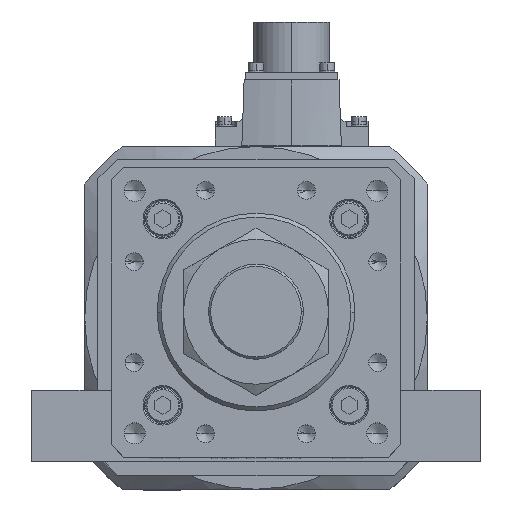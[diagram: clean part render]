
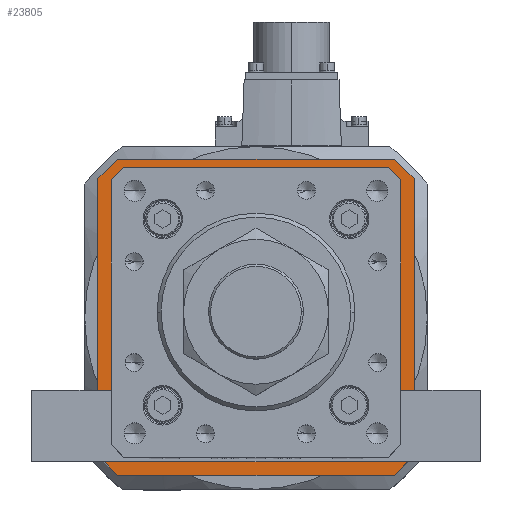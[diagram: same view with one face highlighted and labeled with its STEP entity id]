
A CAD part, top view. The second image highlights one B-rep face of the part: STEP entity #23805.
In plain terms, the highlighted planar face has unit normal (0, 0, 1).
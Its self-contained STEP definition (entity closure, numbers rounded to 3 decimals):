
#252 = EDGE_CURVE ( 'NONE', #26090, #24322, #35913, .T. ) ;
#342 = EDGE_CURVE ( 'NONE', #34647, #35421, #24324, .T. ) ;
#572 = FACE_BOUND ( 'NONE', #6734, .T. ) ;
#703 = DIRECTION ( 'NONE',  ( -0.707, -0.707, 0. ) ) ;
#1301 = LINE ( 'NONE', #16593, #8253 ) ;
#1606 = LINE ( 'NONE', #21027, #23800 ) ;
#1674 = VECTOR ( 'NONE', #15169, 1000. ) ;
#2238 = VERTEX_POINT ( 'NONE', #34491 ) ;
#2271 = CARTESIAN_POINT ( 'NONE',  ( 60., -52.5, -119. ) ) ;
#2414 = EDGE_CURVE ( 'NONE', #36026, #3022, #6103, .T. ) ;
#2607 = CARTESIAN_POINT ( 'NONE',  ( 49.446, -53.646, -119. ) ) ;
#2615 = CARTESIAN_POINT ( 'NONE',  ( -53.5, 49.593, -119. ) ) ;
#2717 = CARTESIAN_POINT ( 'NONE',  ( 60., 52.5, -119. ) ) ;
#2742 = VECTOR ( 'NONE', #30207, 1000. ) ;
#3022 = VERTEX_POINT ( 'NONE', #26905 ) ;
#3534 = ORIENTED_EDGE ( 'NONE', *, *, #13659, .T. ) ;
#4077 = CARTESIAN_POINT ( 'NONE',  ( 52.5, 60., -119. ) ) ;
#4644 = VECTOR ( 'NONE', #17588, 1000. ) ;
#4985 = ORIENTED_EDGE ( 'NONE', *, *, #29047, .T. ) ;
#5326 = CARTESIAN_POINT ( 'NONE',  ( -60., -52.5, -119. ) ) ;
#5660 = VERTEX_POINT ( 'NONE', #5326 ) ;
#5730 = LINE ( 'NONE', #9615, #11767 ) ;
#5872 = CARTESIAN_POINT ( 'NONE',  ( 49.593, -53.5, -119. ) ) ;
#6103 = LINE ( 'NONE', #12118, #13563 ) ;
#6734 = EDGE_LOOP ( 'NONE', ( #3534, #4985, #14838, #36094, #13591, #8046, #31119, #13250 ) ) ;
#6997 = LINE ( 'NONE', #32676, #29194 ) ;
#7024 = VERTEX_POINT ( 'NONE', #5872 ) ;
#7186 = CARTESIAN_POINT ( 'NONE',  ( -53.5, 49.8, -119. ) ) ;
#7530 = LINE ( 'NONE', #4077, #17679 ) ;
#7575 = DIRECTION ( 'NONE',  ( 0., 0., 1. ) ) ;
#7669 = ORIENTED_EDGE ( 'NONE', *, *, #342, .F. ) ;
#7707 = PLANE ( 'NONE',  #28534 ) ;
#7794 = CARTESIAN_POINT ( 'NONE',  ( 53.5, 49.593, -119. ) ) ;
#7877 = VERTEX_POINT ( 'NONE', #34126 ) ;
#8046 = ORIENTED_EDGE ( 'NONE', *, *, #2414, .T. ) ;
#8253 = VECTOR ( 'NONE', #22654, 1000. ) ;
#8733 = VERTEX_POINT ( 'NONE', #27308 ) ;
#8829 = EDGE_CURVE ( 'NONE', #35421, #2238, #5730, .T. ) ;
#8980 = CARTESIAN_POINT ( 'NONE',  ( -49.593, 53.5, -119. ) ) ;
#9349 = ORIENTED_EDGE ( 'NONE', *, *, #32543, .F. ) ;
#9615 = CARTESIAN_POINT ( 'NONE',  ( 60., -52.5, -119. ) ) ;
#9893 = VECTOR ( 'NONE', #31810, 1000. ) ;
#10254 = CARTESIAN_POINT ( 'NONE',  ( 53.5, -49.593, -119. ) ) ;
#10270 = EDGE_CURVE ( 'NONE', #16380, #34647, #36158, .T. ) ;
#11767 = VECTOR ( 'NONE', #703, 1000. ) ;
#12118 = CARTESIAN_POINT ( 'NONE',  ( -53.646, -49.446, -119. ) ) ;
#12125 = VECTOR ( 'NONE', #32424, 1000. ) ;
#12332 = VECTOR ( 'NONE', #26528, 1000. ) ;
#12547 = DIRECTION ( 'NONE',  ( 0.707, 0.707, 0. ) ) ;
#12594 = VERTEX_POINT ( 'NONE', #32774 ) ;
#12678 = LINE ( 'NONE', #7186, #23295 ) ;
#13250 = ORIENTED_EDGE ( 'NONE', *, *, #37642, .T. ) ;
#13526 = DIRECTION ( 'NONE',  ( 1., 0., 0. ) ) ;
#13563 = VECTOR ( 'NONE', #20750, 1000. ) ;
#13564 = ORIENTED_EDGE ( 'NONE', *, *, #20747, .F. ) ;
#13591 = ORIENTED_EDGE ( 'NONE', *, *, #19901, .T. ) ;
#13659 = EDGE_CURVE ( 'NONE', #28954, #22117, #24770, .T. ) ;
#13993 = LINE ( 'NONE', #26685, #21813 ) ;
#14838 = ORIENTED_EDGE ( 'NONE', *, *, #252, .T. ) ;
#15169 = DIRECTION ( 'NONE',  ( 0., -1., 0. ) ) ;
#16228 = DIRECTION ( 'NONE',  ( 1., 0., 0. ) ) ;
#16380 = VERTEX_POINT ( 'NONE', #31460 ) ;
#16543 = DIRECTION ( 'NONE',  ( 0.707, 0.707, 0. ) ) ;
#16593 = CARTESIAN_POINT ( 'NONE',  ( -52.5, -60., -119. ) ) ;
#16923 = VECTOR ( 'NONE', #25393, 1000. ) ;
#17273 = LINE ( 'NONE', #2607, #9893 ) ;
#17588 = DIRECTION ( 'NONE',  ( -1., 0., 0. ) ) ;
#17679 = VECTOR ( 'NONE', #16228, 1000. ) ;
#17876 = CARTESIAN_POINT ( 'NONE',  ( 53.5, -49.8, -119. ) ) ;
#18400 = CARTESIAN_POINT ( 'NONE',  ( 60., 52.5, -119. ) ) ;
#18636 = CARTESIAN_POINT ( 'NONE',  ( 60., 52.5, -119. ) ) ;
#19247 = EDGE_CURVE ( 'NONE', #2238, #8733, #28219, .T. ) ;
#19494 = ORIENTED_EDGE ( 'NONE', *, *, #29285, .F. ) ;
#19644 = EDGE_CURVE ( 'NONE', #12594, #7877, #28682, .T. ) ;
#19901 = EDGE_CURVE ( 'NONE', #7024, #36026, #27708, .T. ) ;
#20747 = EDGE_CURVE ( 'NONE', #8733, #5660, #1301, .T. ) ;
#20750 = DIRECTION ( 'NONE',  ( -0.707, 0.707, 0. ) ) ;
#21027 = CARTESIAN_POINT ( 'NONE',  ( -60., 52.5, -119. ) ) ;
#21813 = VECTOR ( 'NONE', #38206, 1000. ) ;
#22117 = VERTEX_POINT ( 'NONE', #30586 ) ;
#22654 = DIRECTION ( 'NONE',  ( -0.707, 0.707, 0. ) ) ;
#22730 = ORIENTED_EDGE ( 'NONE', *, *, #8829, .F. ) ;
#23295 = VECTOR ( 'NONE', #27730, 1000. ) ;
#23800 = VECTOR ( 'NONE', #27113, 1000. ) ;
#23805 = ADVANCED_FACE ( 'NONE', ( #572, #34348 ), #7707, .T. ) ;
#24322 = VERTEX_POINT ( 'NONE', #10254 ) ;
#24324 = LINE ( 'NONE', #18400, #1674 ) ;
#24770 = LINE ( 'NONE', #33286, #16923 ) ;
#24956 = VECTOR ( 'NONE', #16543, 1000. ) ;
#25393 = DIRECTION ( 'NONE',  ( 1., 0., 0. ) ) ;
#26090 = VERTEX_POINT ( 'NONE', #7794 ) ;
#26528 = DIRECTION ( 'NONE',  ( 0., -1., 0. ) ) ;
#26632 = CARTESIAN_POINT ( 'NONE',  ( -49.593, -53.5, -119. ) ) ;
#26685 = CARTESIAN_POINT ( 'NONE',  ( 53.646, 49.446, -119. ) ) ;
#26905 = CARTESIAN_POINT ( 'NONE',  ( -53.5, -49.593, -119. ) ) ;
#27113 = DIRECTION ( 'NONE',  ( 0., 1., 0. ) ) ;
#27190 = EDGE_LOOP ( 'NONE', ( #19494, #34845, #9349, #13564, #30028, #22730, #7669, #37568 ) ) ;
#27226 = CARTESIAN_POINT ( 'NONE',  ( -49.8, -53.5, -119. ) ) ;
#27308 = CARTESIAN_POINT ( 'NONE',  ( -52.5, -60., -119. ) ) ;
#27708 = LINE ( 'NONE', #27226, #2742 ) ;
#27730 = DIRECTION ( 'NONE',  ( 0., 1., 0. ) ) ;
#28120 = EDGE_CURVE ( 'NONE', #24322, #7024, #17273, .T. ) ;
#28219 = LINE ( 'NONE', #35162, #4644 ) ;
#28534 = AXIS2_PLACEMENT_3D ( 'NONE', #34575, #7575, #13526 ) ;
#28682 = LINE ( 'NONE', #36948, #24956 ) ;
#28954 = VERTEX_POINT ( 'NONE', #8980 ) ;
#29047 = EDGE_CURVE ( 'NONE', #22117, #26090, #13993, .T. ) ;
#29194 = VECTOR ( 'NONE', #12547, 1000. ) ;
#29285 = EDGE_CURVE ( 'NONE', #7877, #16380, #7530, .T. ) ;
#30028 = ORIENTED_EDGE ( 'NONE', *, *, #19247, .F. ) ;
#30207 = DIRECTION ( 'NONE',  ( -1., 0., 0. ) ) ;
#30586 = CARTESIAN_POINT ( 'NONE',  ( 49.593, 53.5, -119. ) ) ;
#31119 = ORIENTED_EDGE ( 'NONE', *, *, #33219, .T. ) ;
#31460 = CARTESIAN_POINT ( 'NONE',  ( 52.5, 60., -119. ) ) ;
#31810 = DIRECTION ( 'NONE',  ( -0.707, -0.707, 0. ) ) ;
#32424 = DIRECTION ( 'NONE',  ( 0.707, -0.707, 0. ) ) ;
#32543 = EDGE_CURVE ( 'NONE', #5660, #12594, #1606, .T. ) ;
#32676 = CARTESIAN_POINT ( 'NONE',  ( -49.446, 53.646, -119. ) ) ;
#32774 = CARTESIAN_POINT ( 'NONE',  ( -60., 52.5, -119. ) ) ;
#33219 = EDGE_CURVE ( 'NONE', #3022, #36101, #12678, .T. ) ;
#33286 = CARTESIAN_POINT ( 'NONE',  ( 49.8, 53.5, -119. ) ) ;
#34126 = CARTESIAN_POINT ( 'NONE',  ( -52.5, 60., -119. ) ) ;
#34348 = FACE_OUTER_BOUND ( 'NONE', #27190, .T. ) ;
#34491 = CARTESIAN_POINT ( 'NONE',  ( 52.5, -60., -119. ) ) ;
#34575 = CARTESIAN_POINT ( 'NONE',  ( 0., 0., -119. ) ) ;
#34647 = VERTEX_POINT ( 'NONE', #18636 ) ;
#34845 = ORIENTED_EDGE ( 'NONE', *, *, #19644, .F. ) ;
#35162 = CARTESIAN_POINT ( 'NONE',  ( 52.5, -60., -119. ) ) ;
#35421 = VERTEX_POINT ( 'NONE', #2271 ) ;
#35913 = LINE ( 'NONE', #17876, #12332 ) ;
#36026 = VERTEX_POINT ( 'NONE', #26632 ) ;
#36094 = ORIENTED_EDGE ( 'NONE', *, *, #28120, .T. ) ;
#36101 = VERTEX_POINT ( 'NONE', #2615 ) ;
#36158 = LINE ( 'NONE', #2717, #12125 ) ;
#36948 = CARTESIAN_POINT ( 'NONE',  ( -52.5, 60., -119. ) ) ;
#37568 = ORIENTED_EDGE ( 'NONE', *, *, #10270, .F. ) ;
#37642 = EDGE_CURVE ( 'NONE', #36101, #28954, #6997, .T. ) ;
#38206 = DIRECTION ( 'NONE',  ( 0.707, -0.707, 0. ) ) ;
